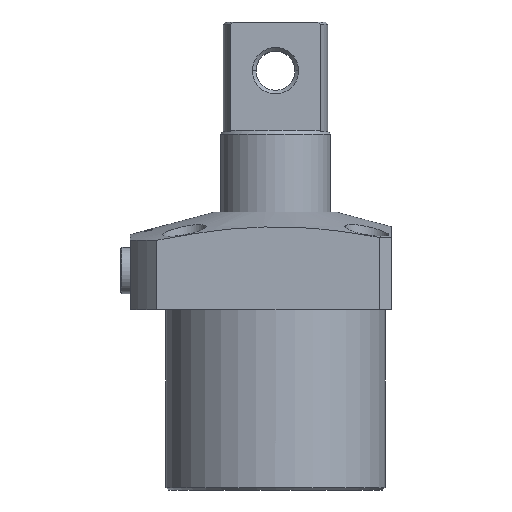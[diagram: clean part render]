
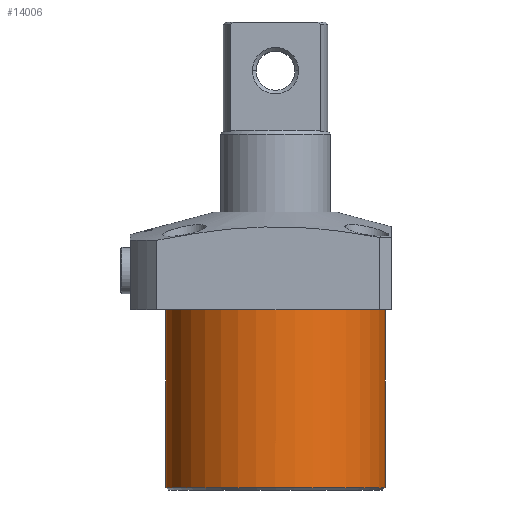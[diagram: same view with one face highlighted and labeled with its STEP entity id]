
A CAD part, front view. The second image highlights one B-rep face of the part: STEP entity #14006.
In plain terms, the highlighted cylindrical face has radius 45 mm (diameter 90 mm), a partial arc.
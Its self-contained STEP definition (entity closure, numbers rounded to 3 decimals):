
#47 = VERTEX_POINT ( 'NONE', #15444 ) ;
#267 = DIRECTION ( 'NONE',  ( 0., 0., 1. ) ) ;
#613 = DIRECTION ( 'NONE',  ( 0., 0., -1. ) ) ;
#858 = EDGE_CURVE ( 'NONE', #8220, #5393, #8050, .T. ) ;
#1359 = DIRECTION ( 'NONE',  ( 0., 0., 1. ) ) ;
#1504 = CARTESIAN_POINT ( 'NONE',  ( -45., 0., -74. ) ) ;
#1862 = ORIENTED_EDGE ( 'NONE', *, *, #7463, .T. ) ;
#2296 = CIRCLE ( 'NONE', #13759, 45. ) ;
#3319 = VERTEX_POINT ( 'NONE', #10805 ) ;
#3730 = DIRECTION ( 'NONE',  ( 1., 0., 0. ) ) ;
#3875 = DIRECTION ( 'NONE',  ( 0., 0., 1. ) ) ;
#4365 = CARTESIAN_POINT ( 'NONE',  ( 0., 0., -73. ) ) ;
#4516 = EDGE_LOOP ( 'NONE', ( #7306, #5620, #15672, #1862 ) ) ;
#4750 = AXIS2_PLACEMENT_3D ( 'NONE', #6074, #1359, #3730 ) ;
#4971 = CARTESIAN_POINT ( 'NONE',  ( 45., 0., -74. ) ) ;
#5157 = LINE ( 'NONE', #4971, #10875 ) ;
#5393 = VERTEX_POINT ( 'NONE', #10834 ) ;
#5575 = DIRECTION ( 'NONE',  ( -1., 0., 0. ) ) ;
#5620 = ORIENTED_EDGE ( 'NONE', *, *, #8480, .T. ) ;
#6074 = CARTESIAN_POINT ( 'NONE',  ( 0., 0., -74. ) ) ;
#7306 = ORIENTED_EDGE ( 'NONE', *, *, #858, .F. ) ;
#7463 = EDGE_CURVE ( 'NONE', #3319, #5393, #11153, .T. ) ;
#7762 = CARTESIAN_POINT ( 'NONE',  ( 0., 0., 0. ) ) ;
#8050 = LINE ( 'NONE', #1504, #14549 ) ;
#8220 = VERTEX_POINT ( 'NONE', #9665 ) ;
#8480 = EDGE_CURVE ( 'NONE', #8220, #47, #2296, .T. ) ;
#8976 = DIRECTION ( 'NONE',  ( -1., 0., 0. ) ) ;
#9665 = CARTESIAN_POINT ( 'NONE',  ( -45., 0., -73. ) ) ;
#10805 = CARTESIAN_POINT ( 'NONE',  ( 45., 0., 0. ) ) ;
#10834 = CARTESIAN_POINT ( 'NONE',  ( -45., 0., 0. ) ) ;
#10875 = VECTOR ( 'NONE', #267, 1000. ) ;
#11153 = CIRCLE ( 'NONE', #14405, 45. ) ;
#12181 = EDGE_CURVE ( 'NONE', #47, #3319, #5157, .T. ) ;
#12778 = FACE_OUTER_BOUND ( 'NONE', #4516, .T. ) ;
#12881 = DIRECTION ( 'NONE',  ( 0., 0., 1. ) ) ;
#13759 = AXIS2_PLACEMENT_3D ( 'NONE', #4365, #12881, #5575 ) ;
#14006 = ADVANCED_FACE ( 'NONE', ( #12778 ), #15661, .T. ) ;
#14405 = AXIS2_PLACEMENT_3D ( 'NONE', #7762, #613, #8976 ) ;
#14549 = VECTOR ( 'NONE', #3875, 1000. ) ;
#15444 = CARTESIAN_POINT ( 'NONE',  ( 45., 0., -73. ) ) ;
#15661 = CYLINDRICAL_SURFACE ( 'NONE', #4750, 45. ) ;
#15672 = ORIENTED_EDGE ( 'NONE', *, *, #12181, .T. ) ;
